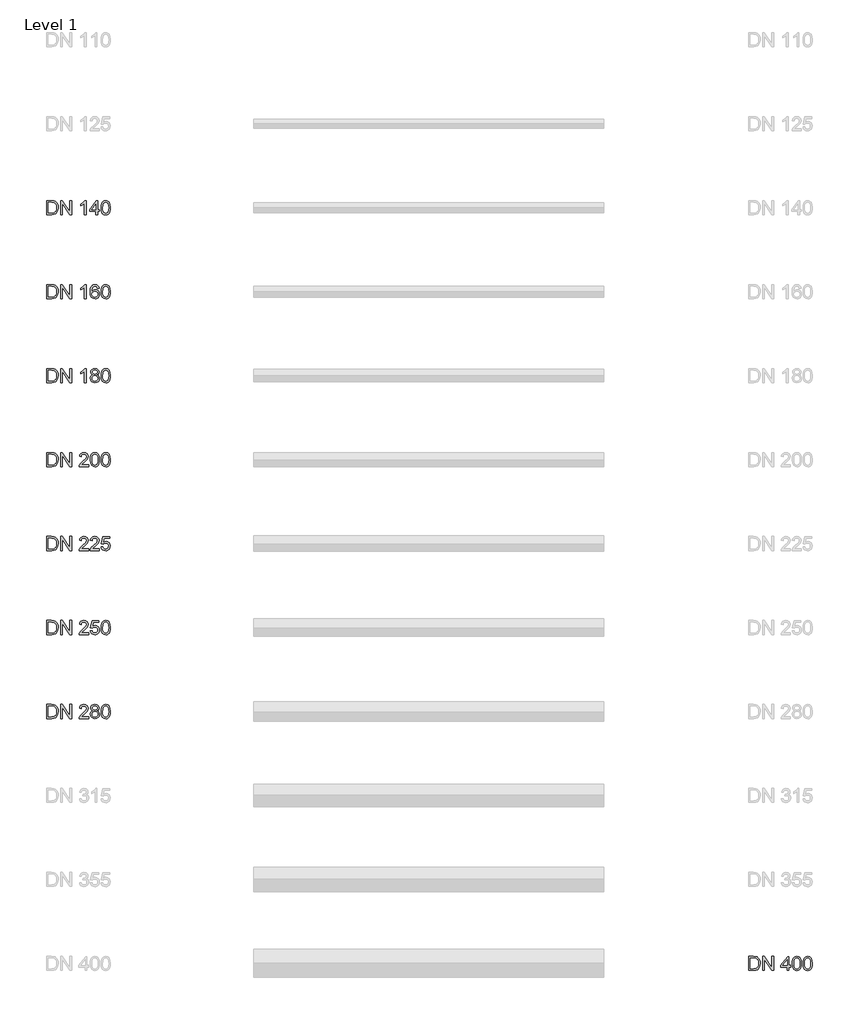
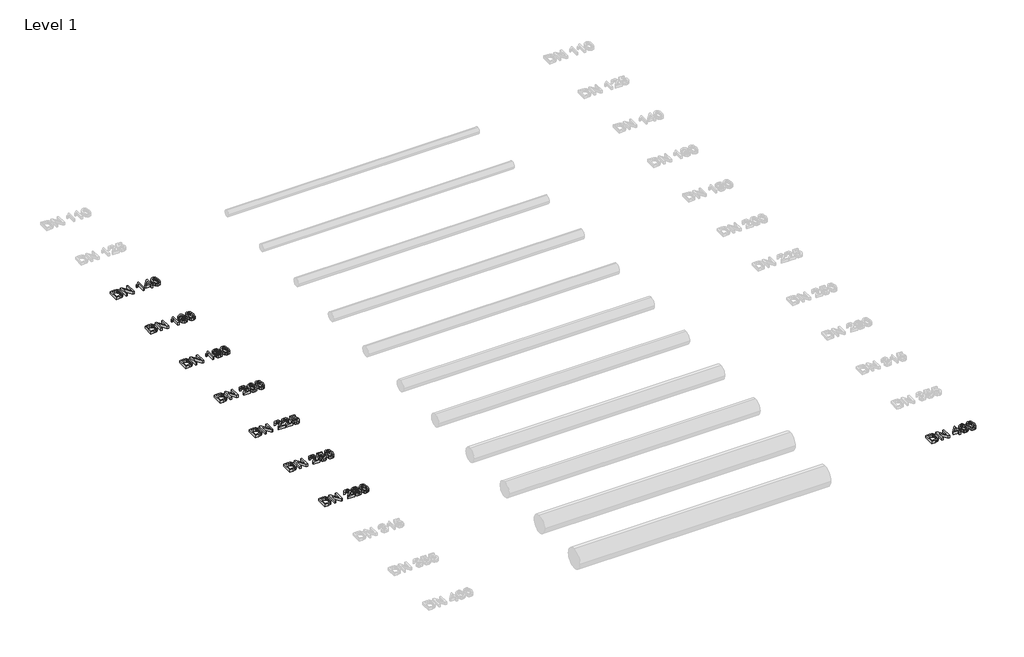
# One storey, part 3 of 26: 8 proxies.
"""IFC4 building model written with IfcOpenShell, lengths in millimetres."""

from ifc_helpers import new_model, si_unit, origin, origin_with_axes, place, context, project, spatial, polyline, outline, extrude, element, save

model = new_model("IFC4")

# Units and contexts
model_context = context("Model", 3, world=origin())
ifc_project = project(units=[si_unit("LENGTHUNIT", "METRE", prefix="MILLI")], contexts=[model_context])

# Site, building, storey
site = spatial("IfcSite", under=ifc_project)
building = spatial("IfcBuilding", under=site)
storey = spatial("IfcBuildingStorey", under=building, Name="Level 1", Elevation=0.0)

# Proxies
placement = place(None, origin())
element("IfcBuildingElementProxy", 1, Name="200mm Arial", ObjectType="200mm Arial", at=placement, inside=storey, context=model_context, shape_type="SweptSolid", body=[
    extrude(outline(polyline([(-19491.3116028, -98213.949573), (-19491.3116028, -98013.0369527), (-19422.0026349, -98013.0369527), (-19386.1464031, -98015.9309577), (-19370.1312736, -98021.5105013), (-19356.6177416, -98030.302881), (-19342.724065, -98045.606772), (-19332.8280393, -98064.6385338), (-19326.9051392, -98087.0302846), (-19324.9308391, -98112.4141423), (-19330.2773908, -98152.9547382), (-19344.0116519, -98182.2136195), (-19362.3567008, -98200.436041), (-19386.3671323, -98210.5160077), (-19418.6671715, -98213.949573), (-19491.3116028, -98213.949573)]), holes=[polyline([(-19466.1975253, -98188.8354954), (-19421.7573803, -98188.8354954), (-19389.4328156, -98185.2057264), (-19370.7934612, -98174.9540815), (-19362.0685265, -98164.0831685), (-19355.5140957, -98150.0116822), (-19351.4122114, -98132.6783089), (-19350.0449167, -98112.0217348), (-19352.7243239, -98084.6513144), (-19360.7625455, -98064.4423301), (-19372.6390025, -98050.5609162), (-19386.8331162, -98042.1732067), (-19422.4440933, -98038.1510302), (-19466.1975253, -98038.1510302), (-19466.1975253, -98188.8354954)])]), origin_with_axes(), (0.0, 0.0, 1.0), 50.0),
    extrude(outline(polyline([(-19290.3989825, -98213.949573), (-19290.3989825, -98013.0369527), (-19263.5190714, -98013.0369527), (-19158.5500754, -98172.2072292), (-19158.5500754, -98013.0369527), (-19133.4359979, -98013.0369527), (-19133.4359979, -98213.949573), (-19160.315909, -98213.949573), (-19265.284905, -98054.7302454), (-19265.284905, -98213.949573), (-19290.3989825, -98213.949573)])), origin_with_axes(), (0.0, 0.0, 1.0), 50.0),
    extrude(outline(polyline([(-18926.2448582, -98213.949573), (-18951.3589358, -98213.949573), (-18951.3589358, -98057.3789958), (-18975.1486381, -98074.3260931), (-19001.5870908, -98087.0057592), (-19001.5870908, -98063.2651077), (-18964.7743658, -98039.769711), (-18951.3037535, -98026.1948653), (-18942.431666, -98013.0369527), (-18926.2448582, -98013.0369527), (-18926.2448582, -98213.949573)])), origin_with_axes(), (0.0, 0.0, 1.0), 50.0),
    extrude(outline(polyline([(-18737.8892767, -98066.4043674), (-18763.0033542, -98069.5436271), (-18772.5192352, -98048.5988789), (-18783.9113143, -98040.7629924), (-18797.6823636, -98038.1510302), (-18820.3438945, -98044.2333458), (-18829.7800677, -98053.8411973), (-18837.4871955, -98067.066555), (-18842.6927257, -98085.7733545), (-18844.6241062, -98111.8255311), (-18834.5502709, -98100.0717013), (-18822.4776101, -98091.7882251), (-18809.0805741, -98086.8770005), (-18795.0336133, -98085.2399256), (-18771.8325221, -98089.7158232), (-18752.3593018, -98103.143516), (-18739.1523382, -98123.6590686), (-18734.750017, -98149.3985455), (-18736.8224189, -98167.3818437), (-18743.0396246, -98184.0530295), (-18752.8865994, -98198.1919608), (-18765.8483083, -98208.5784958), (-18781.3361403, -98214.9612484), (-18798.7614842, -98217.0888326), (-18827.2539447, -98211.4479754), (-18849.9461324, -98194.5254036), (-18858.6051549, -98181.4165418), (-18864.7901709, -98164.6533856), (-18869.7381838, -98120.1641897), (-18864.2444793, -98070.144501), (-18857.3773487, -98051.0667539), (-18847.7633659, -98035.9437382), (-18837.3431084, -98025.9220195), (-18825.2612505, -98018.763649), (-18796.1127338, -98013.0369527), (-18774.0766023, -98016.5808825), (-18756.4305292, -98027.2126722), (-18744.0696942, -98044.0984558), (-18737.8892767, -98066.4043674)]), holes=[polyline([(-18844.6241062, -98149.0061381), (-18838.8115707, -98170.7602267), (-18823.3605269, -98186.554627), (-18800.7235215, -98191.9747551), (-18784.1504376, -98189.1665892), (-18771.1212836, -98180.7420915), (-18762.6783918, -98167.4983397), (-18759.8640945, -98150.2324114), (-18762.6416036, -98133.6593275), (-18770.9741308, -98121.022581), (-18784.224014, -98113.0211476), (-18801.7535911, -98110.3540031), (-18818.3021495, -98113.0211476), (-18832.1406439, -98121.022581), (-18841.5032406, -98133.3527592), (-18844.6241062, -98149.0061381)])]), origin_with_axes(), (0.0, 0.0, 1.0), 50.0),
    extrude(outline(polyline([(-18712.7751992, -98115.1119436), (-18710.9296578, -98082.9529258), (-18705.3930338, -98057.3054194), (-18696.2205094, -98037.7770168), (-18683.4672669, -98023.9753106), (-18667.0413358, -98015.7715422), (-18646.8507456, -98013.0369527), (-18631.3751764, -98014.6556334), (-18617.5182879, -98019.5116758), (-18605.930005, -98027.4150073), (-18597.2602527, -98038.1755557), (-18585.4880288, -98067.9004209), (-18580.9262921, -98115.1119436), (-18582.7534393, -98147.0870203), (-18588.2348811, -98172.6732131), (-18597.3522232, -98192.2200098), (-18610.0870716, -98206.0768983), (-18626.5497909, -98214.335849), (-18646.8507456, -98217.0888326), (-18672.9458418, -98212.3063667), (-18692.7624186, -98197.9589689), (-18701.5180101, -98182.8298218), (-18707.772004, -98163.9789353), (-18712.7751992, -98115.1119436)]), holes=[polyline([(-18687.6611216, -98115.0628927), (-18684.7180657, -98154.5672876), (-18675.8888978, -98177.4311536), (-18662.7432478, -98188.3388547), (-18646.8507456, -98191.9747551), (-18630.9582434, -98188.326592), (-18617.8125935, -98177.3821026), (-18608.9834256, -98154.5059739), (-18606.0403696, -98115.0628927), (-18608.8853237, -98076.4475459), (-18617.420186, -98053.4058703), (-18630.5413105, -98041.9647402), (-18647.1450512, -98038.1510302), (-18662.8658751, -98041.5110191), (-18675.4964903, -98051.5909857), (-18684.6199638, -98076.0674012), (-18687.6611216, -98115.0628927)])]), origin_with_axes(), (0.0, 0.0, 1.0), 50.0),
])
element("IfcBuildingElementProxy", 2, Name="200mm Arial", ObjectType="200mm Arial", at=placement, inside=storey, context=model_context, shape_type="SweptSolid", body=[
    extrude(outline(polyline([(-19491.3116028, -100613.949573), (-19491.3116028, -100413.0369527), (-19422.0026349, -100413.0369527), (-19386.1464031, -100415.9309577), (-19370.1312736, -100421.5105013), (-19356.6177416, -100430.302881), (-19342.724065, -100445.606772), (-19332.8280393, -100464.6385338), (-19326.9051392, -100487.0302846), (-19324.9308391, -100512.4141423), (-19330.2773908, -100552.9547382), (-19344.0116519, -100582.2136195), (-19362.3567008, -100600.436041), (-19386.3671323, -100610.5160077), (-19418.6671715, -100613.949573), (-19491.3116028, -100613.949573)]), holes=[polyline([(-19466.1975253, -100588.8354954), (-19421.7573803, -100588.8354954), (-19389.4328156, -100585.2057264), (-19370.7934612, -100574.9540815), (-19362.0685265, -100564.0831685), (-19355.5140957, -100550.0116822), (-19351.4122114, -100532.6783089), (-19350.0449167, -100512.0217348), (-19352.7243239, -100484.6513144), (-19360.7625455, -100464.4423301), (-19372.6390025, -100450.5609162), (-19386.8331162, -100442.1732067), (-19422.4440933, -100438.1510302), (-19466.1975253, -100438.1510302), (-19466.1975253, -100588.8354954)])]), origin_with_axes(), (0.0, 0.0, 1.0), 50.0),
    extrude(outline(polyline([(-19290.3989825, -100613.949573), (-19290.3989825, -100413.0369527), (-19263.5190714, -100413.0369527), (-19158.5500754, -100572.2072292), (-19158.5500754, -100413.0369527), (-19133.4359979, -100413.0369527), (-19133.4359979, -100613.949573), (-19160.315909, -100613.949573), (-19265.284905, -100454.7302454), (-19265.284905, -100613.949573), (-19290.3989825, -100613.949573)])), origin_with_axes(), (0.0, 0.0, 1.0), 50.0),
    extrude(outline(polyline([(-18891.7130016, -100588.8354954), (-18891.7130016, -100613.949573), (-19023.5619087, -100613.949573), (-19020.8641074, -100596.6345937), (-19005.6092673, -100569.9754118), (-18974.1676195, -100540.8636832), (-18930.806595, -100499.0232377), (-18922.6764029, -100484.6022634), (-18919.9663388, -100470.5736967), (-18922.5231187, -100457.9982638), (-18930.1934583, -100447.5442838), (-18941.9840762, -100440.4993436), (-18956.9016912, -100438.1510302), (-18972.5673328, -100440.4441613), (-18984.7380955, -100447.3235546), (-18992.5923761, -100458.2496499), (-18995.3085714, -100472.6828868), (-19020.422649, -100469.5436271), (-19014.334202, -100445.2511527), (-19001.1701579, -100427.5069778), (-18981.6172299, -100416.6544589), (-18956.3621309, -100413.0369527), (-18930.9230909, -100417.0591291), (-18911.4069511, -100429.1256586), (-18898.9909337, -100447.1518763), (-18894.8522613, -100469.0531178), (-18899.3158962, -100492.8673456), (-18914.1538033, -100517.4909138), (-18950.1326624, -100551.9001431), (-18979.0236618, -100576.0577275), (-18990.3544272, -100588.8354954), (-18891.7130016, -100588.8354954)])), origin_with_axes(), (0.0, 0.0, 1.0), 50.0),
    extrude(outline(polyline([(-18866.5989241, -100515.1119436), (-18864.7533827, -100482.9529258), (-18859.2167587, -100457.3054194), (-18850.0442343, -100437.7770168), (-18837.2909918, -100423.9753106), (-18820.8650607, -100415.7715422), (-18800.6744705, -100413.0369527), (-18785.1989013, -100414.6556334), (-18771.3420128, -100419.5116758), (-18759.7537299, -100427.4150073), (-18751.0839776, -100438.1755557), (-18739.3117537, -100467.9004209), (-18734.750017, -100515.1119436), (-18736.5771642, -100547.0870203), (-18742.058606, -100572.6732131), (-18751.1759481, -100592.2200098), (-18763.9107965, -100606.0768983), (-18780.3735158, -100614.335849), (-18800.6744705, -100617.0888326), (-18826.7695667, -100612.3063667), (-18846.5861435, -100597.9589689), (-18855.341735, -100582.8298218), (-18861.5957289, -100563.9789353), (-18866.5989241, -100515.1119436)]), holes=[polyline([(-18841.4848465, -100515.0628927), (-18838.5417906, -100554.5672876), (-18829.7126227, -100577.4311536), (-18816.5669727, -100588.3388547), (-18800.6744705, -100591.9747551), (-18784.7819683, -100588.326592), (-18771.6363184, -100577.3821026), (-18762.8071505, -100554.5059739), (-18759.8640945, -100515.0628927), (-18762.7090486, -100476.4475459), (-18771.2439109, -100453.4058703), (-18784.3650354, -100441.9647402), (-18800.9687761, -100438.1510302), (-18816.6896001, -100441.5110191), (-18829.3202152, -100451.5909857), (-18838.4436887, -100476.0674012), (-18841.4848465, -100515.0628927)])]), origin_with_axes(), (0.0, 0.0, 1.0), 50.0),
    extrude(outline(polyline([(-18712.7751992, -100515.1119436), (-18710.9296578, -100482.9529258), (-18705.3930338, -100457.3054194), (-18696.2205094, -100437.7770168), (-18683.4672669, -100423.9753106), (-18667.0413358, -100415.7715422), (-18646.8507456, -100413.0369527), (-18631.3751764, -100414.6556334), (-18617.5182879, -100419.5116758), (-18605.930005, -100427.4150073), (-18597.2602527, -100438.1755557), (-18585.4880288, -100467.9004209), (-18580.9262921, -100515.1119436), (-18582.7534393, -100547.0870203), (-18588.2348811, -100572.6732131), (-18597.3522232, -100592.2200098), (-18610.0870716, -100606.0768983), (-18626.5497909, -100614.335849), (-18646.8507456, -100617.0888326), (-18672.9458418, -100612.3063667), (-18692.7624186, -100597.9589689), (-18701.5180101, -100582.8298218), (-18707.772004, -100563.9789353), (-18712.7751992, -100515.1119436)]), holes=[polyline([(-18687.6611216, -100515.0628927), (-18684.7180657, -100554.5672876), (-18675.8888978, -100577.4311536), (-18662.7432478, -100588.3388547), (-18646.8507456, -100591.9747551), (-18630.9582434, -100588.326592), (-18617.8125935, -100577.3821026), (-18608.9834256, -100554.5059739), (-18606.0403696, -100515.0628927), (-18608.8853237, -100476.4475459), (-18617.420186, -100453.4058703), (-18630.5413105, -100441.9647402), (-18647.1450512, -100438.1510302), (-18662.8658751, -100441.5110191), (-18675.4964903, -100451.5909857), (-18684.6199638, -100476.0674012), (-18687.6611216, -100515.0628927)])]), origin_with_axes(), (0.0, 0.0, 1.0), 50.0),
])
element("IfcBuildingElementProxy", 3, Name="200mm Arial", ObjectType="200mm Arial", at=placement, inside=storey, context=model_context, shape_type="SweptSolid", body=[
    extrude(outline(polyline([(-19491.3116028, -103013.949573), (-19491.3116028, -102813.0369527), (-19422.0026349, -102813.0369527), (-19386.1464031, -102815.9309577), (-19370.1312736, -102821.5105013), (-19356.6177416, -102830.302881), (-19342.724065, -102845.606772), (-19332.8280393, -102864.6385338), (-19326.9051392, -102887.0302846), (-19324.9308391, -102912.4141423), (-19330.2773908, -102952.9547382), (-19344.0116519, -102982.2136195), (-19362.3567008, -103000.436041), (-19386.3671323, -103010.5160077), (-19418.6671715, -103013.949573), (-19491.3116028, -103013.949573)]), holes=[polyline([(-19466.1975253, -102988.8354954), (-19421.7573803, -102988.8354954), (-19389.4328156, -102985.2057264), (-19370.7934612, -102974.9540815), (-19362.0685265, -102964.0831685), (-19355.5140957, -102950.0116822), (-19351.4122114, -102932.6783089), (-19350.0449167, -102912.0217348), (-19352.7243239, -102884.6513144), (-19360.7625455, -102864.4423301), (-19372.6390025, -102850.5609162), (-19386.8331162, -102842.1732067), (-19422.4440933, -102838.1510302), (-19466.1975253, -102838.1510302), (-19466.1975253, -102988.8354954)])]), origin_with_axes(), (0.0, 0.0, 1.0), 50.0),
    extrude(outline(polyline([(-19290.3989825, -103013.949573), (-19290.3989825, -102813.0369527), (-19263.5190714, -102813.0369527), (-19158.5500754, -102972.2072292), (-19158.5500754, -102813.0369527), (-19133.4359979, -102813.0369527), (-19133.4359979, -103013.949573), (-19160.315909, -103013.949573), (-19265.284905, -102854.7302454), (-19265.284905, -103013.949573), (-19290.3989825, -103013.949573)])), origin_with_axes(), (0.0, 0.0, 1.0), 50.0),
    extrude(outline(polyline([(-18891.7130016, -102988.8354954), (-18891.7130016, -103013.949573), (-19023.5619087, -103013.949573), (-19020.8641074, -102996.6345937), (-19005.6092673, -102969.9754118), (-18974.1676195, -102940.8636832), (-18930.806595, -102899.0232377), (-18922.6764029, -102884.6022634), (-18919.9663388, -102870.5736967), (-18922.5231187, -102857.9982638), (-18930.1934583, -102847.5442838), (-18941.9840762, -102840.4993436), (-18956.9016912, -102838.1510302), (-18972.5673328, -102840.4441613), (-18984.7380955, -102847.3235546), (-18992.5923761, -102858.2496499), (-18995.3085714, -102872.6828868), (-19020.422649, -102869.5436271), (-19014.334202, -102845.2511527), (-19001.1701579, -102827.5069778), (-18981.6172299, -102816.6544589), (-18956.3621309, -102813.0369527), (-18930.9230909, -102817.0591291), (-18911.4069511, -102829.1256586), (-18898.9909337, -102847.1518763), (-18894.8522613, -102869.0531178), (-18899.3158962, -102892.8673456), (-18914.1538033, -102917.4909138), (-18950.1326624, -102951.9001431), (-18979.0236618, -102976.0577275), (-18990.3544272, -102988.8354954), (-18891.7130016, -102988.8354954)])), origin_with_axes(), (0.0, 0.0, 1.0), 50.0),
    extrude(outline(polyline([(-18866.5989241, -102960.5821582), (-18841.4848465, -102957.4428985), (-18836.8740589, -102972.5199289), (-18828.8297059, -102983.3172655), (-18817.3885758, -102989.8103827), (-18802.5874569, -102991.9747551), (-18784.5857646, -102988.9642541), (-18771.0967581, -102979.9327511), (-18762.6722604, -102965.9225785), (-18759.8640945, -102947.9760685), (-18762.4944508, -102931.0780222), (-18770.3855196, -102918.1531014), (-18783.5986146, -102909.9493329), (-18802.1950494, -102907.2147434), (-18824.2434437, -102911.5802764), (-18838.3455868, -102922.9110419), (-18863.4596644, -102919.7717822), (-18841.4848465, -102816.1762123), (-18744.1677961, -102816.1762123), (-18744.1677961, -102841.2902899), (-18821.1777604, -102841.2902899), (-18831.9199147, -102896.619742), (-18813.979536, -102885.7304349), (-18795.1807661, -102882.1006659), (-18771.7160261, -102886.601089), (-18752.2366745, -102900.1023582), (-18739.1216814, -102920.6792244), (-18734.750017, -102946.4064386), (-18738.6863543, -102971.5205162), (-18750.4953664, -102993.0048247), (-18760.9309523, -103003.5415782), (-18773.1078464, -103011.0678307), (-18787.0260485, -103015.5835821), (-18802.6855588, -103017.0888326), (-18827.3520466, -103013.2199403), (-18847.0030765, -103001.6132634), (-18860.4736888, -102983.6177025), (-18866.5989241, -102960.5821582)])), origin_with_axes(), (0.0, 0.0, 1.0), 50.0),
    extrude(outline(polyline([(-18712.7751992, -102915.1119436), (-18710.9296578, -102882.9529258), (-18705.3930338, -102857.3054194), (-18696.2205094, -102837.7770168), (-18683.4672669, -102823.9753106), (-18667.0413358, -102815.7715422), (-18646.8507456, -102813.0369527), (-18631.3751764, -102814.6556334), (-18617.5182879, -102819.5116758), (-18605.930005, -102827.4150073), (-18597.2602527, -102838.1755557), (-18585.4880288, -102867.9004209), (-18580.9262921, -102915.1119436), (-18582.7534393, -102947.0870203), (-18588.2348811, -102972.6732131), (-18597.3522232, -102992.2200098), (-18610.0870716, -103006.0768983), (-18626.5497909, -103014.335849), (-18646.8507456, -103017.0888326), (-18672.9458418, -103012.3063667), (-18692.7624186, -102997.9589689), (-18701.5180101, -102982.8298218), (-18707.772004, -102963.9789353), (-18712.7751992, -102915.1119436)]), holes=[polyline([(-18687.6611216, -102915.0628927), (-18684.7180657, -102954.5672876), (-18675.8888978, -102977.4311536), (-18662.7432478, -102988.3388547), (-18646.8507456, -102991.9747551), (-18630.9582434, -102988.326592), (-18617.8125935, -102977.3821026), (-18608.9834256, -102954.5059739), (-18606.0403696, -102915.0628927), (-18608.8853237, -102876.4475459), (-18617.420186, -102853.4058703), (-18630.5413105, -102841.9647402), (-18647.1450512, -102838.1510302), (-18662.8658751, -102841.5110191), (-18675.4964903, -102851.5909857), (-18684.6199638, -102876.0674012), (-18687.6611216, -102915.0628927)])]), origin_with_axes(), (0.0, 0.0, 1.0), 50.0),
])
element("IfcBuildingElementProxy", 4, Name="200mm Arial", ObjectType="200mm Arial", at=placement, inside=storey, context=model_context, shape_type="SweptSolid", body=[
    extrude(outline(polyline([(-19491.3116028, -97013.949573), (-19491.3116028, -96813.0369527), (-19422.0026349, -96813.0369527), (-19386.1464031, -96815.9309577), (-19370.1312736, -96821.5105013), (-19356.6177416, -96830.302881), (-19342.724065, -96845.606772), (-19332.8280393, -96864.6385338), (-19326.9051392, -96887.0302846), (-19324.9308391, -96912.4141423), (-19330.2773908, -96952.9547382), (-19344.0116519, -96982.2136195), (-19362.3567008, -97000.436041), (-19386.3671323, -97010.5160077), (-19418.6671715, -97013.949573), (-19491.3116028, -97013.949573)]), holes=[polyline([(-19466.1975253, -96988.8354954), (-19421.7573803, -96988.8354954), (-19389.4328156, -96985.2057264), (-19370.7934612, -96974.9540815), (-19362.0685265, -96964.0831685), (-19355.5140957, -96950.0116822), (-19351.4122114, -96932.6783089), (-19350.0449167, -96912.0217348), (-19352.7243239, -96884.6513144), (-19360.7625455, -96864.4423301), (-19372.6390025, -96850.5609162), (-19386.8331162, -96842.1732067), (-19422.4440933, -96838.1510302), (-19466.1975253, -96838.1510302), (-19466.1975253, -96988.8354954)])]), origin_with_axes(), (0.0, 0.0, 1.0), 50.0),
    extrude(outline(polyline([(-19290.3989825, -97013.949573), (-19290.3989825, -96813.0369527), (-19263.5190714, -96813.0369527), (-19158.5500754, -96972.2072292), (-19158.5500754, -96813.0369527), (-19133.4359979, -96813.0369527), (-19133.4359979, -97013.949573), (-19160.315909, -97013.949573), (-19265.284905, -96854.7302454), (-19265.284905, -97013.949573), (-19290.3989825, -97013.949573)])), origin_with_axes(), (0.0, 0.0, 1.0), 50.0),
    extrude(outline(polyline([(-18926.2448582, -97013.949573), (-18951.3589358, -97013.949573), (-18951.3589358, -96857.3789958), (-18975.1486381, -96874.3260931), (-19001.5870908, -96887.0057592), (-19001.5870908, -96863.2651077), (-18964.7743658, -96839.769711), (-18951.3037535, -96826.1948653), (-18942.431666, -96813.0369527), (-18926.2448582, -96813.0369527), (-18926.2448582, -97013.949573)])), origin_with_axes(), (0.0, 0.0, 1.0), 50.0),
    extrude(outline(polyline([(-18784.9781721, -97013.949573), (-18784.9781721, -96966.8606776), (-18876.0167031, -96966.8606776), (-18876.0167031, -96941.7466), (-18778.6996527, -96816.1762123), (-18759.8640945, -96816.1762123), (-18759.8640945, -96941.7466), (-18734.750017, -96941.7466), (-18734.750017, -96966.8606776), (-18759.8640945, -96966.8606776), (-18759.8640945, -97013.949573), (-18784.9781721, -97013.949573)]), holes=[polyline([(-18784.9781721, -96941.7466), (-18784.9781721, -96864.1480245), (-18845.1146156, -96941.7466), (-18784.9781721, -96941.7466)])]), origin_with_axes(), (0.0, 0.0, 1.0), 50.0),
    extrude(outline(polyline([(-18712.7751992, -96915.1119436), (-18710.9296578, -96882.9529258), (-18705.3930338, -96857.3054194), (-18696.2205094, -96837.7770168), (-18683.4672669, -96823.9753106), (-18667.0413358, -96815.7715422), (-18646.8507456, -96813.0369527), (-18631.3751764, -96814.6556334), (-18617.5182879, -96819.5116758), (-18605.930005, -96827.4150073), (-18597.2602527, -96838.1755557), (-18585.4880288, -96867.9004209), (-18580.9262921, -96915.1119436), (-18582.7534393, -96947.0870203), (-18588.2348811, -96972.6732131), (-18597.3522232, -96992.2200098), (-18610.0870716, -97006.0768983), (-18626.5497909, -97014.335849), (-18646.8507456, -97017.0888326), (-18672.9458418, -97012.3063667), (-18692.7624186, -96997.9589689), (-18701.5180101, -96982.8298218), (-18707.772004, -96963.9789353), (-18712.7751992, -96915.1119436)]), holes=[polyline([(-18687.6611216, -96915.0628927), (-18684.7180657, -96954.5672876), (-18675.8888978, -96977.4311536), (-18662.7432478, -96988.3388547), (-18646.8507456, -96991.9747551), (-18630.9582434, -96988.326592), (-18617.8125935, -96977.3821026), (-18608.9834256, -96954.5059739), (-18606.0403696, -96915.0628927), (-18608.8853237, -96876.4475459), (-18617.420186, -96853.4058703), (-18630.5413105, -96841.9647402), (-18647.1450512, -96838.1510302), (-18662.8658751, -96841.5110191), (-18675.4964903, -96851.5909857), (-18684.6199638, -96876.0674012), (-18687.6611216, -96915.0628927)])]), origin_with_axes(), (0.0, 0.0, 1.0), 50.0),
])
element("IfcBuildingElementProxy", 5, Name="200mm Arial", ObjectType="200mm Arial", at=placement, inside=storey, context=model_context, shape_type="SweptSolid", body=[
    extrude(outline(polyline([(-19491.3116028, -99413.949573), (-19491.3116028, -99213.0369527), (-19422.0026349, -99213.0369527), (-19386.1464031, -99215.9309577), (-19370.1312736, -99221.5105013), (-19356.6177416, -99230.302881), (-19342.724065, -99245.606772), (-19332.8280393, -99264.6385338), (-19326.9051392, -99287.0302846), (-19324.9308391, -99312.4141423), (-19330.2773908, -99352.9547382), (-19344.0116519, -99382.2136195), (-19362.3567008, -99400.436041), (-19386.3671323, -99410.5160077), (-19418.6671715, -99413.949573), (-19491.3116028, -99413.949573)]), holes=[polyline([(-19466.1975253, -99388.8354954), (-19421.7573803, -99388.8354954), (-19389.4328156, -99385.2057264), (-19370.7934612, -99374.9540815), (-19362.0685265, -99364.0831685), (-19355.5140957, -99350.0116822), (-19351.4122114, -99332.6783089), (-19350.0449167, -99312.0217348), (-19352.7243239, -99284.6513144), (-19360.7625455, -99264.4423301), (-19372.6390025, -99250.5609162), (-19386.8331162, -99242.1732067), (-19422.4440933, -99238.1510302), (-19466.1975253, -99238.1510302), (-19466.1975253, -99388.8354954)])]), origin_with_axes(), (0.0, 0.0, 1.0), 50.0),
    extrude(outline(polyline([(-19290.3989825, -99413.949573), (-19290.3989825, -99213.0369527), (-19263.5190714, -99213.0369527), (-19158.5500754, -99372.2072292), (-19158.5500754, -99213.0369527), (-19133.4359979, -99213.0369527), (-19133.4359979, -99413.949573), (-19160.315909, -99413.949573), (-19265.284905, -99254.7302454), (-19265.284905, -99413.949573), (-19290.3989825, -99413.949573)])), origin_with_axes(), (0.0, 0.0, 1.0), 50.0),
    extrude(outline(polyline([(-18926.2448582, -99413.949573), (-18951.3589358, -99413.949573), (-18951.3589358, -99257.3789958), (-18975.1486381, -99274.3260931), (-19001.5870908, -99287.0057592), (-19001.5870908, -99263.2651077), (-18964.7743658, -99239.769711), (-18951.3037535, -99226.1948653), (-18942.431666, -99213.0369527), (-18926.2448582, -99213.0369527), (-18926.2448582, -99413.949573)])), origin_with_axes(), (0.0, 0.0, 1.0), 50.0),
    extrude(outline(polyline([(-18830.0069283, -99303.2906688), (-18843.4530152, -99296.6687929), (-18852.8891884, -99287.6924722), (-18858.4626006, -99276.5456478), (-18860.3204047, -99263.4122605), (-18856.2737027, -99243.7796247), (-18844.1335969, -99227.5560287), (-18825.2612505, -99216.6667217), (-18801.0178271, -99213.0369527), (-18776.6272508, -99216.7525608), (-18757.5096498, -99227.8993853), (-18745.1488147, -99244.3804986), (-18741.0285364, -99264.0989736), (-18742.861815, -99276.8092965), (-18748.3616508, -99287.7660486), (-18757.5893575, -99296.687187), (-18770.6062488, -99303.2906688), (-18755.1490736, -99311.255314), (-18743.8980159, -99322.9846183), (-18737.0370167, -99337.9144959), (-18734.750017, -99355.4808612), (-18739.2872283, -99379.4912927), (-18752.8988621, -99399.332395), (-18773.9171868, -99412.6497232), (-18800.6744705, -99417.0888326), (-18827.4317543, -99412.6313291), (-18848.450079, -99399.2588186), (-18862.0617128, -99379.227644), (-18866.5989241, -99354.7941481), (-18864.2199538, -99336.5472012), (-18857.0830431, -99321.5376158), (-18845.5560739, -99310.2804267), (-18830.0069283, -99303.2906688)]), holes=[polyline([(-18835.2063271, -99264.1480245), (-18832.9806411, -99275.110908), (-18826.3035829, -99283.8664995), (-18815.3713562, -99289.6054586), (-18800.3801649, -99291.518445), (-18785.7384615, -99289.6177213), (-18774.9717818, -99283.9155504), (-18768.3499059, -99275.4542645), (-18766.1426139, -99265.276196), (-18768.4234823, -99254.7118513), (-18775.2660874, -99245.974654), (-18786.1799199, -99240.1069361), (-18800.6744705, -99238.1510302), (-18815.2609916, -99240.0640166), (-18826.1564301, -99245.8029757), (-18832.9438529, -99254.2152106), (-18835.2063271, -99264.1480245)]), polyline([(-18841.4848465, -99353.9112313), (-18837.2909918, -99372.8203659), (-18831.4845876, -99380.9321639), (-18822.4530846, -99386.97156), (-18800.4782668, -99391.9747551), (-18783.3840168, -99389.3443988), (-18770.5571979, -99381.45333), (-18762.5373704, -99369.5032966), (-18759.8640945, -99354.6960463), (-18762.6232095, -99339.6374099), (-18770.9005544, -99327.4237277), (-18784.0216789, -99319.3303238), (-18801.3121327, -99316.6325225), (-18818.1672594, -99319.2935356), (-18830.8653196, -99327.2765749), (-18838.8299648, -99339.2572652), (-18841.4848465, -99353.9112313)])]), origin_with_axes(), (0.0, 0.0, 1.0), 50.0),
    extrude(outline(polyline([(-18712.7751992, -99315.1119436), (-18710.9296578, -99282.9529258), (-18705.3930338, -99257.3054194), (-18696.2205094, -99237.7770168), (-18683.4672669, -99223.9753106), (-18667.0413358, -99215.7715422), (-18646.8507456, -99213.0369527), (-18631.3751764, -99214.6556334), (-18617.5182879, -99219.5116758), (-18605.930005, -99227.4150073), (-18597.2602527, -99238.1755557), (-18585.4880288, -99267.9004209), (-18580.9262921, -99315.1119436), (-18582.7534393, -99347.0870203), (-18588.2348811, -99372.6732131), (-18597.3522232, -99392.2200098), (-18610.0870716, -99406.0768983), (-18626.5497909, -99414.335849), (-18646.8507456, -99417.0888326), (-18672.9458418, -99412.3063667), (-18692.7624186, -99397.9589689), (-18701.5180101, -99382.8298218), (-18707.772004, -99363.9789353), (-18712.7751992, -99315.1119436)]), holes=[polyline([(-18687.6611216, -99315.0628927), (-18684.7180657, -99354.5672876), (-18675.8888978, -99377.4311536), (-18662.7432478, -99388.3388547), (-18646.8507456, -99391.9747551), (-18630.9582434, -99388.326592), (-18617.8125935, -99377.3821026), (-18608.9834256, -99354.5059739), (-18606.0403696, -99315.0628927), (-18608.8853237, -99276.4475459), (-18617.420186, -99253.4058703), (-18630.5413105, -99241.9647402), (-18647.1450512, -99238.1510302), (-18662.8658751, -99241.5110191), (-18675.4964903, -99251.5909857), (-18684.6199638, -99276.0674012), (-18687.6611216, -99315.0628927)])]), origin_with_axes(), (0.0, 0.0, 1.0), 50.0),
])
element("IfcBuildingElementProxy", 6, Name="200mm Arial", ObjectType="200mm Arial", at=placement, inside=storey, context=model_context, shape_type="SweptSolid", body=[
    extrude(outline(polyline([(-19491.3116028, -101813.949573), (-19491.3116028, -101613.0369527), (-19422.0026349, -101613.0369527), (-19386.1464031, -101615.9309577), (-19370.1312736, -101621.5105013), (-19356.6177416, -101630.302881), (-19342.724065, -101645.606772), (-19332.8280393, -101664.6385338), (-19326.9051392, -101687.0302846), (-19324.9308391, -101712.4141423), (-19330.2773908, -101752.9547382), (-19344.0116519, -101782.2136195), (-19362.3567008, -101800.436041), (-19386.3671323, -101810.5160077), (-19418.6671715, -101813.949573), (-19491.3116028, -101813.949573)]), holes=[polyline([(-19466.1975253, -101788.8354954), (-19421.7573803, -101788.8354954), (-19389.4328156, -101785.2057264), (-19370.7934612, -101774.9540815), (-19362.0685265, -101764.0831685), (-19355.5140957, -101750.0116822), (-19351.4122114, -101732.6783089), (-19350.0449167, -101712.0217348), (-19352.7243239, -101684.6513144), (-19360.7625455, -101664.4423301), (-19372.6390025, -101650.5609162), (-19386.8331162, -101642.1732067), (-19422.4440933, -101638.1510302), (-19466.1975253, -101638.1510302), (-19466.1975253, -101788.8354954)])]), origin_with_axes(), (0.0, 0.0, 1.0), 50.0),
    extrude(outline(polyline([(-19290.3989825, -101813.949573), (-19290.3989825, -101613.0369527), (-19263.5190714, -101613.0369527), (-19158.5500754, -101772.2072292), (-19158.5500754, -101613.0369527), (-19133.4359979, -101613.0369527), (-19133.4359979, -101813.949573), (-19160.315909, -101813.949573), (-19265.284905, -101654.7302454), (-19265.284905, -101813.949573), (-19290.3989825, -101813.949573)])), origin_with_axes(), (0.0, 0.0, 1.0), 50.0),
    extrude(outline(polyline([(-18891.7130016, -101788.8354954), (-18891.7130016, -101813.949573), (-19023.5619087, -101813.949573), (-19020.8641074, -101796.6345937), (-19005.6092673, -101769.9754118), (-18974.1676195, -101740.8636832), (-18930.806595, -101699.0232377), (-18922.6764029, -101684.6022634), (-18919.9663388, -101670.5736967), (-18922.5231187, -101657.9982638), (-18930.1934583, -101647.5442838), (-18941.9840762, -101640.4993436), (-18956.9016912, -101638.1510302), (-18972.5673328, -101640.4441613), (-18984.7380955, -101647.3235546), (-18992.5923761, -101658.2496499), (-18995.3085714, -101672.6828868), (-19020.422649, -101669.5436271), (-19014.334202, -101645.2511527), (-19001.1701579, -101627.5069778), (-18981.6172299, -101616.6544589), (-18956.3621309, -101613.0369527), (-18930.9230909, -101617.0591291), (-18911.4069511, -101629.1256586), (-18898.9909337, -101647.1518763), (-18894.8522613, -101669.0531178), (-18899.3158962, -101692.8673456), (-18914.1538033, -101717.4909138), (-18950.1326624, -101751.9001431), (-18979.0236618, -101776.0577275), (-18990.3544272, -101788.8354954), (-18891.7130016, -101788.8354954)])), origin_with_axes(), (0.0, 0.0, 1.0), 50.0),
    extrude(outline(polyline([(-18737.8892767, -101788.8354954), (-18737.8892767, -101813.949573), (-18869.7381838, -101813.949573), (-18867.0403825, -101796.6345937), (-18851.7855424, -101769.9754118), (-18820.3438945, -101740.8636832), (-18776.98287, -101699.0232377), (-18768.852678, -101684.6022634), (-18766.1426139, -101670.5736967), (-18768.6993938, -101657.9982638), (-18776.3697334, -101647.5442838), (-18788.1603513, -101640.4993436), (-18803.0779662, -101638.1510302), (-18818.7436079, -101640.4441613), (-18830.9143705, -101647.3235546), (-18838.7686511, -101658.2496499), (-18841.4848465, -101672.6828868), (-18866.5989241, -101669.5436271), (-18860.510477, -101645.2511527), (-18847.346433, -101627.5069778), (-18827.7935049, -101616.6544589), (-18802.538406, -101613.0369527), (-18777.099366, -101617.0591291), (-18757.5832262, -101629.1256586), (-18745.1672088, -101647.1518763), (-18741.0285364, -101669.0531178), (-18745.4921713, -101692.8673456), (-18760.3300784, -101717.4909138), (-18796.3089375, -101751.9001431), (-18825.1999369, -101776.0577275), (-18836.5307023, -101788.8354954), (-18737.8892767, -101788.8354954)])), origin_with_axes(), (0.0, 0.0, 1.0), 50.0),
    extrude(outline(polyline([(-18712.7751992, -101760.5821582), (-18687.6611216, -101757.4428985), (-18683.0503339, -101772.5199289), (-18675.005981, -101783.3172655), (-18663.5648509, -101789.8103827), (-18648.763732, -101791.9747551), (-18630.7620397, -101788.9642541), (-18617.2730332, -101779.9327511), (-18608.8485355, -101765.9225785), (-18606.0403696, -101747.9760685), (-18608.6707259, -101731.0780222), (-18616.5617947, -101718.1531014), (-18629.7748897, -101709.9493329), (-18648.3713245, -101707.2147434), (-18670.4197188, -101711.5802764), (-18684.5218619, -101722.9110419), (-18709.6359395, -101719.7717822), (-18687.6611216, -101616.1762123), (-18590.3440712, -101616.1762123), (-18590.3440712, -101641.2902899), (-18667.3540355, -101641.2902899), (-18678.0961897, -101696.619742), (-18660.1558111, -101685.7304349), (-18641.3570412, -101682.1006659), (-18617.8923012, -101686.601089), (-18598.4129496, -101700.1023582), (-18585.2979565, -101720.6792244), (-18580.9262921, -101746.4064386), (-18584.8626294, -101771.5205162), (-18596.6716415, -101793.0048247), (-18607.1072274, -101803.5415782), (-18619.2841214, -101811.0678307), (-18633.2023236, -101815.5835821), (-18648.8618339, -101817.0888326), (-18673.5283216, -101813.2199403), (-18693.1793515, -101801.6132634), (-18706.6499639, -101783.6177025), (-18712.7751992, -101760.5821582)])), origin_with_axes(), (0.0, 0.0, 1.0), 50.0),
])
element("IfcBuildingElementProxy", 7, Name="200mm Arial", ObjectType="200mm Arial", at=placement, inside=storey, context=model_context, shape_type="SweptSolid", body=[
    extrude(outline(polyline([(-19491.3116028, -104213.949573), (-19491.3116028, -104013.0369527), (-19422.0026349, -104013.0369527), (-19386.1464031, -104015.9309577), (-19370.1312736, -104021.5105013), (-19356.6177416, -104030.302881), (-19342.724065, -104045.606772), (-19332.8280393, -104064.6385338), (-19326.9051392, -104087.0302846), (-19324.9308391, -104112.4141423), (-19330.2773908, -104152.9547382), (-19344.0116519, -104182.2136195), (-19362.3567008, -104200.436041), (-19386.3671323, -104210.5160077), (-19418.6671715, -104213.949573), (-19491.3116028, -104213.949573)]), holes=[polyline([(-19466.1975253, -104188.8354954), (-19421.7573803, -104188.8354954), (-19389.4328156, -104185.2057264), (-19370.7934612, -104174.9540815), (-19362.0685265, -104164.0831685), (-19355.5140957, -104150.0116822), (-19351.4122114, -104132.6783089), (-19350.0449167, -104112.0217348), (-19352.7243239, -104084.6513144), (-19360.7625455, -104064.4423301), (-19372.6390025, -104050.5609162), (-19386.8331162, -104042.1732067), (-19422.4440933, -104038.1510302), (-19466.1975253, -104038.1510302), (-19466.1975253, -104188.8354954)])]), origin_with_axes(), (0.0, 0.0, 1.0), 50.0),
    extrude(outline(polyline([(-19290.3989825, -104213.949573), (-19290.3989825, -104013.0369527), (-19263.5190714, -104013.0369527), (-19158.5500754, -104172.2072292), (-19158.5500754, -104013.0369527), (-19133.4359979, -104013.0369527), (-19133.4359979, -104213.949573), (-19160.315909, -104213.949573), (-19265.284905, -104054.7302454), (-19265.284905, -104213.949573), (-19290.3989825, -104213.949573)])), origin_with_axes(), (0.0, 0.0, 1.0), 50.0),
    extrude(outline(polyline([(-18891.7130016, -104188.8354954), (-18891.7130016, -104213.949573), (-19023.5619087, -104213.949573), (-19020.8641074, -104196.6345937), (-19005.6092673, -104169.9754118), (-18974.1676195, -104140.8636832), (-18930.806595, -104099.0232377), (-18922.6764029, -104084.6022634), (-18919.9663388, -104070.5736967), (-18922.5231187, -104057.9982638), (-18930.1934583, -104047.5442838), (-18941.9840762, -104040.4993436), (-18956.9016912, -104038.1510302), (-18972.5673328, -104040.4441613), (-18984.7380955, -104047.3235546), (-18992.5923761, -104058.2496499), (-18995.3085714, -104072.6828868), (-19020.422649, -104069.5436271), (-19014.334202, -104045.2511527), (-19001.1701579, -104027.5069778), (-18981.6172299, -104016.6544589), (-18956.3621309, -104013.0369527), (-18930.9230909, -104017.0591291), (-18911.4069511, -104029.1256586), (-18898.9909337, -104047.1518763), (-18894.8522613, -104069.0531178), (-18899.3158962, -104092.8673456), (-18914.1538033, -104117.4909138), (-18950.1326624, -104151.9001431), (-18979.0236618, -104176.0577275), (-18990.3544272, -104188.8354954), (-18891.7130016, -104188.8354954)])), origin_with_axes(), (0.0, 0.0, 1.0), 50.0),
    extrude(outline(polyline([(-18830.0069283, -104103.2906688), (-18843.4530152, -104096.6687929), (-18852.8891884, -104087.6924722), (-18858.4626006, -104076.5456478), (-18860.3204047, -104063.4122605), (-18856.2737027, -104043.7796247), (-18844.1335969, -104027.5560287), (-18825.2612505, -104016.6667217), (-18801.0178271, -104013.0369527), (-18776.6272508, -104016.7525608), (-18757.5096498, -104027.8993853), (-18745.1488147, -104044.3804986), (-18741.0285364, -104064.0989736), (-18742.861815, -104076.8092965), (-18748.3616508, -104087.7660486), (-18757.5893575, -104096.687187), (-18770.6062488, -104103.2906688), (-18755.1490736, -104111.255314), (-18743.8980159, -104122.9846183), (-18737.0370167, -104137.9144959), (-18734.750017, -104155.4808612), (-18739.2872283, -104179.4912927), (-18752.8988621, -104199.332395), (-18773.9171868, -104212.6497232), (-18800.6744705, -104217.0888326), (-18827.4317543, -104212.6313291), (-18848.450079, -104199.2588186), (-18862.0617128, -104179.227644), (-18866.5989241, -104154.7941481), (-18864.2199538, -104136.5472012), (-18857.0830431, -104121.5376158), (-18845.5560739, -104110.2804267), (-18830.0069283, -104103.2906688)]), holes=[polyline([(-18841.4848465, -104153.9112313), (-18837.2909918, -104172.8203659), (-18831.4845876, -104180.9321639), (-18822.4530846, -104186.97156), (-18800.4782668, -104191.9747551), (-18783.3840168, -104189.3443988), (-18770.5571979, -104181.45333), (-18762.5373704, -104169.5032966), (-18759.8640945, -104154.6960463), (-18762.6232095, -104139.6374099), (-18770.9005544, -104127.4237277), (-18784.0216789, -104119.3303238), (-18801.3121327, -104116.6325225), (-18818.1672594, -104119.2935356), (-18830.8653196, -104127.2765749), (-18838.8299648, -104139.2572652), (-18841.4848465, -104153.9112313)]), polyline([(-18835.2063271, -104064.1480245), (-18832.9806411, -104075.110908), (-18826.3035829, -104083.8664995), (-18815.3713562, -104089.6054586), (-18800.3801649, -104091.518445), (-18785.7384615, -104089.6177213), (-18774.9717818, -104083.9155504), (-18768.3499059, -104075.4542645), (-18766.1426139, -104065.276196), (-18768.4234823, -104054.7118513), (-18775.2660874, -104045.974654), (-18786.1799199, -104040.1069361), (-18800.6744705, -104038.1510302), (-18815.2609916, -104040.0640166), (-18826.1564301, -104045.8029757), (-18832.9438529, -104054.2152106), (-18835.2063271, -104064.1480245)])]), origin_with_axes(), (0.0, 0.0, 1.0), 50.0),
    extrude(outline(polyline([(-18712.7751992, -104115.1119436), (-18710.9296578, -104082.9529258), (-18705.3930338, -104057.3054194), (-18696.2205094, -104037.7770168), (-18683.4672669, -104023.9753106), (-18667.0413358, -104015.7715422), (-18646.8507456, -104013.0369527), (-18631.3751764, -104014.6556334), (-18617.5182879, -104019.5116758), (-18605.930005, -104027.4150073), (-18597.2602527, -104038.1755557), (-18585.4880288, -104067.9004209), (-18580.9262921, -104115.1119436), (-18582.7534393, -104147.0870203), (-18588.2348811, -104172.6732131), (-18597.3522232, -104192.2200098), (-18610.0870716, -104206.0768983), (-18626.5497909, -104214.335849), (-18646.8507456, -104217.0888326), (-18672.9458418, -104212.3063667), (-18692.7624186, -104197.9589689), (-18701.5180101, -104182.8298218), (-18707.772004, -104163.9789353), (-18712.7751992, -104115.1119436)]), holes=[polyline([(-18687.6611216, -104115.0628927), (-18684.7180657, -104154.5672876), (-18675.8888978, -104177.4311536), (-18662.7432478, -104188.3388547), (-18646.8507456, -104191.9747551), (-18630.9582434, -104188.326592), (-18617.8125935, -104177.3821026), (-18608.9834256, -104154.5059739), (-18606.0403696, -104115.0628927), (-18608.8853237, -104076.4475459), (-18617.420186, -104053.4058703), (-18630.5413105, -104041.9647402), (-18647.1450512, -104038.1510302), (-18662.8658751, -104041.5110191), (-18675.4964903, -104051.5909857), (-18684.6199638, -104076.0674012), (-18687.6611216, -104115.0628927)])]), origin_with_axes(), (0.0, 0.0, 1.0), 50.0),
])
element("IfcBuildingElementProxy", 8, Name="200mm Arial", ObjectType="200mm Arial", at=placement, inside=storey, context=model_context, shape_type="SweptSolid", body=[
    extrude(outline(polyline([(-9460.6923074, -107813.949573), (-9460.6923074, -107613.0369527), (-9391.3833395, -107613.0369527), (-9355.5271077, -107615.9309577), (-9339.5119782, -107621.5105013), (-9325.9984462, -107630.302881), (-9312.1047695, -107645.606772), (-9302.2087438, -107664.6385338), (-9296.2858437, -107687.0302846), (-9294.3115437, -107712.4141423), (-9299.6580953, -107752.9547382), (-9313.3923565, -107782.2136195), (-9331.7374053, -107800.436041), (-9355.7478369, -107810.5160077), (-9388.0478761, -107813.949573), (-9460.6923074, -107813.949573)]), holes=[polyline([(-9435.5782298, -107788.8354954), (-9391.1380848, -107788.8354954), (-9358.8135202, -107785.2057264), (-9340.1741658, -107774.9540815), (-9331.4492311, -107764.0831685), (-9324.8948002, -107750.0116822), (-9320.792916, -107732.6783089), (-9319.4256212, -107712.0217348), (-9322.1050284, -107684.6513144), (-9330.14325, -107664.4423301), (-9342.0197071, -107650.5609162), (-9356.2138207, -107642.1732067), (-9391.8247979, -107638.1510302), (-9435.5782298, -107638.1510302), (-9435.5782298, -107788.8354954)])]), origin_with_axes(), (0.0, 0.0, 1.0), 50.0),
    extrude(outline(polyline([(-9259.7796871, -107813.949573), (-9259.7796871, -107613.0369527), (-9232.899776, -107613.0369527), (-9127.93078, -107772.2072292), (-9127.93078, -107613.0369527), (-9102.8167025, -107613.0369527), (-9102.8167025, -107813.949573), (-9129.6966136, -107813.949573), (-9234.6656095, -107654.7302454), (-9234.6656095, -107813.949573), (-9259.7796871, -107813.949573)])), origin_with_axes(), (0.0, 0.0, 1.0), 50.0),
    extrude(outline(polyline([(-8908.1826015, -107813.949573), (-8908.1826015, -107766.8606776), (-8999.2211326, -107766.8606776), (-8999.2211326, -107741.7466), (-8901.9040822, -107616.1762123), (-8883.068524, -107616.1762123), (-8883.068524, -107741.7466), (-8857.9544465, -107741.7466), (-8857.9544465, -107766.8606776), (-8883.068524, -107766.8606776), (-8883.068524, -107813.949573), (-8908.1826015, -107813.949573)]), holes=[polyline([(-8908.1826015, -107741.7466), (-8908.1826015, -107664.1480245), (-8968.319045, -107741.7466), (-8908.1826015, -107741.7466)])]), origin_with_axes(), (0.0, 0.0, 1.0), 50.0),
    extrude(outline(polyline([(-8835.9796286, -107715.1119436), (-8834.1340873, -107682.9529258), (-8828.5974633, -107657.3054194), (-8819.4249388, -107637.7770168), (-8806.6716963, -107623.9753106), (-8790.2457653, -107615.7715422), (-8770.0551751, -107613.0369527), (-8754.5796058, -107614.6556334), (-8740.7227173, -107619.5116758), (-8729.1344345, -107627.4150073), (-8720.4646821, -107638.1755557), (-8708.6924583, -107667.9004209), (-8704.1307216, -107715.1119436), (-8705.9578688, -107747.0870203), (-8711.4393105, -107772.6732131), (-8720.5566526, -107792.2200098), (-8733.291501, -107806.0768983), (-8749.7542203, -107814.335849), (-8770.0551751, -107817.0888326), (-8796.1502713, -107812.3063667), (-8815.9668481, -107797.9589689), (-8824.7224396, -107782.8298218), (-8830.9764335, -107763.9789353), (-8835.9796286, -107715.1119436)]), holes=[polyline([(-8810.8655511, -107715.0628927), (-8807.9224951, -107754.5672876), (-8799.0933272, -107777.4311536), (-8785.9476773, -107788.3388547), (-8770.0551751, -107791.9747551), (-8754.1626729, -107788.326592), (-8741.0170229, -107777.3821026), (-8732.1878551, -107754.5059739), (-8729.2447991, -107715.0628927), (-8732.0897532, -107676.4475459), (-8740.6246155, -107653.4058703), (-8753.74574, -107641.9647402), (-8770.3494807, -107638.1510302), (-8786.0703046, -107641.5110191), (-8798.7009198, -107651.5909857), (-8807.8243933, -107676.0674012), (-8810.8655511, -107715.0628927)])]), origin_with_axes(), (0.0, 0.0, 1.0), 50.0),
    extrude(outline(polyline([(-8682.1559037, -107715.1119436), (-8680.3103624, -107682.9529258), (-8674.7737383, -107657.3054194), (-8665.6012139, -107637.7770168), (-8652.8479714, -107623.9753106), (-8636.4220403, -107615.7715422), (-8616.2314502, -107613.0369527), (-8600.7558809, -107614.6556334), (-8586.8989924, -107619.5116758), (-8575.3107096, -107627.4150073), (-8566.6409572, -107638.1755557), (-8554.8687334, -107667.9004209), (-8550.3069966, -107715.1119436), (-8552.1341439, -107747.0870203), (-8557.6155856, -107772.6732131), (-8566.7329277, -107792.2200098), (-8579.4677761, -107806.0768983), (-8595.9304954, -107814.335849), (-8616.2314502, -107817.0888326), (-8642.3265464, -107812.3063667), (-8662.1431232, -107797.9589689), (-8670.8987147, -107782.8298218), (-8677.1527086, -107763.9789353), (-8682.1559037, -107715.1119436)]), holes=[polyline([(-8657.0418262, -107715.0628927), (-8654.0987702, -107754.5672876), (-8645.2696023, -107777.4311536), (-8632.1239524, -107788.3388547), (-8616.2314502, -107791.9747551), (-8600.338948, -107788.326592), (-8587.193298, -107777.3821026), (-8578.3641301, -107754.5059739), (-8575.4210742, -107715.0628927), (-8578.2660283, -107676.4475459), (-8586.8008906, -107653.4058703), (-8599.9220151, -107641.9647402), (-8616.5257558, -107638.1510302), (-8632.2465797, -107641.5110191), (-8644.8771949, -107651.5909857), (-8654.0006683, -107676.0674012), (-8657.0418262, -107715.0628927)])]), origin_with_axes(), (0.0, 0.0, 1.0), 50.0),
])

save(model, "model.ifc")
